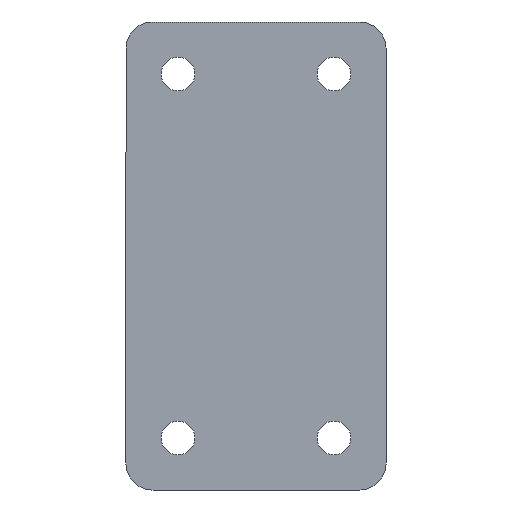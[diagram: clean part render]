
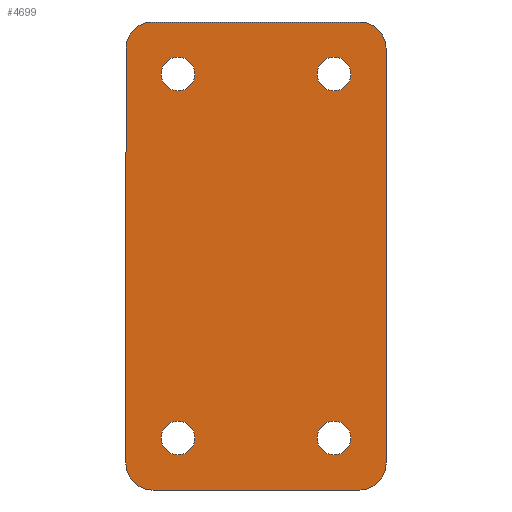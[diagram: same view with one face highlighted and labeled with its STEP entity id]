
A CAD part, front view. The second image highlights one B-rep face of the part: STEP entity #4699.
In plain terms, the highlighted planar face has unit normal (0, -1, 0).
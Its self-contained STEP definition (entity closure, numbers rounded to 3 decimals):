
#95 = EDGE_LOOP ( 'NONE', ( #6137, #782, #2592, #3258, #4084, #3847, #2027, #2039 ) ) ;
#100 = ORIENTED_EDGE ( 'NONE', *, *, #2501, .T. ) ;
#244 = VECTOR ( 'NONE', #1064, 1000. ) ;
#310 = DIRECTION ( 'NONE',  ( 0., 0., 1. ) ) ;
#340 = DIRECTION ( 'NONE',  ( 0., 0., -1. ) ) ;
#348 = PLANE ( 'NONE',  #1452 ) ;
#361 = CARTESIAN_POINT ( 'NONE',  ( 30., -5., 63.5 ) ) ;
#424 = CARTESIAN_POINT ( 'NONE',  ( 40., -5., -80. ) ) ;
#703 = CARTESIAN_POINT ( 'NONE',  ( 40., -5., 80. ) ) ;
#765 = DIRECTION ( 'NONE',  ( 0., -1., 0. ) ) ;
#782 = ORIENTED_EDGE ( 'NONE', *, *, #4715, .T. ) ;
#803 = EDGE_CURVE ( 'NONE', #1171, #3962, #4389, .T. ) ;
#825 = DIRECTION ( 'NONE',  ( 0., 0., 1. ) ) ;
#889 = CARTESIAN_POINT ( 'NONE',  ( 40., -5., -90. ) ) ;
#929 = DIRECTION ( 'NONE',  ( 0., -1., 0. ) ) ;
#1064 = DIRECTION ( 'NONE',  ( 1., 0., 0. ) ) ;
#1066 = AXIS2_PLACEMENT_3D ( 'NONE', #703, #5604, #5530 ) ;
#1123 = CARTESIAN_POINT ( 'NONE',  ( 30., -5., 70. ) ) ;
#1165 = EDGE_CURVE ( 'NONE', #4618, #3319, #3106, .T. ) ;
#1171 = VERTEX_POINT ( 'NONE', #889 ) ;
#1276 = DIRECTION ( 'NONE',  ( 0., 1., 0. ) ) ;
#1281 = AXIS2_PLACEMENT_3D ( 'NONE', #4767, #4275, #825 ) ;
#1300 = ORIENTED_EDGE ( 'NONE', *, *, #1557, .T. ) ;
#1345 = DIRECTION ( 'NONE',  ( 0., 0., 1. ) ) ;
#1406 = CARTESIAN_POINT ( 'NONE',  ( -50., -5., 80. ) ) ;
#1452 = AXIS2_PLACEMENT_3D ( 'NONE', #2300, #1937, #1772 ) ;
#1557 = EDGE_CURVE ( 'NONE', #2632, #4958, #1710, .T. ) ;
#1566 = FACE_BOUND ( 'NONE', #4624, .T. ) ;
#1573 = LINE ( 'NONE', #4586, #244 ) ;
#1620 = AXIS2_PLACEMENT_3D ( 'NONE', #1681, #5580, #4669 ) ;
#1627 = DIRECTION ( 'NONE',  ( 0., 1., 0. ) ) ;
#1629 = VECTOR ( 'NONE', #5295, 1000. ) ;
#1681 = CARTESIAN_POINT ( 'NONE',  ( 30., -5., 70. ) ) ;
#1710 = CIRCLE ( 'NONE', #1620, 6.5 ) ;
#1772 = DIRECTION ( 'NONE',  ( 0., 0., 1. ) ) ;
#1776 = DIRECTION ( 'NONE',  ( 0., 0., 1. ) ) ;
#1778 = CARTESIAN_POINT ( 'NONE',  ( -30., -5., 70. ) ) ;
#1783 = EDGE_CURVE ( 'NONE', #4341, #3319, #4934, .T. ) ;
#1824 = ORIENTED_EDGE ( 'NONE', *, *, #4863, .T. ) ;
#1849 = VERTEX_POINT ( 'NONE', #3752 ) ;
#1914 = VERTEX_POINT ( 'NONE', #5206 ) ;
#1937 = DIRECTION ( 'NONE',  ( 0., 1., 0. ) ) ;
#1940 = AXIS2_PLACEMENT_3D ( 'NONE', #6200, #4233, #5726 ) ;
#1986 = DIRECTION ( 'NONE',  ( 0., 1., 0. ) ) ;
#1988 = VERTEX_POINT ( 'NONE', #6182 ) ;
#2027 = ORIENTED_EDGE ( 'NONE', *, *, #5828, .F. ) ;
#2032 = FACE_BOUND ( 'NONE', #4249, .T. ) ;
#2039 = ORIENTED_EDGE ( 'NONE', *, *, #1783, .T. ) ;
#2127 = DIRECTION ( 'NONE',  ( 0., 0., 1. ) ) ;
#2164 = CARTESIAN_POINT ( 'NONE',  ( 30., -5., -63.5 ) ) ;
#2234 = VERTEX_POINT ( 'NONE', #5693 ) ;
#2287 = CARTESIAN_POINT ( 'NONE',  ( -50., -5., -90. ) ) ;
#2295 = EDGE_CURVE ( 'NONE', #3397, #2234, #3028, .T. ) ;
#2300 = CARTESIAN_POINT ( 'NONE',  ( 0., -5., 0. ) ) ;
#2318 = CARTESIAN_POINT ( 'NONE',  ( 30., -5., -70. ) ) ;
#2370 = AXIS2_PLACEMENT_3D ( 'NONE', #2318, #2788, #3776 ) ;
#2383 = CARTESIAN_POINT ( 'NONE',  ( -30., -5., -76.5 ) ) ;
#2452 = AXIS2_PLACEMENT_3D ( 'NONE', #1123, #1627, #2127 ) ;
#2464 = VERTEX_POINT ( 'NONE', #3699 ) ;
#2490 = AXIS2_PLACEMENT_3D ( 'NONE', #1778, #1276, #6168 ) ;
#2500 = CIRCLE ( 'NONE', #3281, 6.5 ) ;
#2501 = EDGE_CURVE ( 'NONE', #6097, #5011, #6227, .T. ) ;
#2555 = DIRECTION ( 'NONE',  ( 0., 1., 0. ) ) ;
#2592 = ORIENTED_EDGE ( 'NONE', *, *, #3114, .F. ) ;
#2632 = VERTEX_POINT ( 'NONE', #361 ) ;
#2695 = CARTESIAN_POINT ( 'NONE',  ( 50., -5., -80. ) ) ;
#2721 = CIRCLE ( 'NONE', #1066, 10. ) ;
#2788 = DIRECTION ( 'NONE',  ( 0., 1., 0. ) ) ;
#2792 = DIRECTION ( 'NONE',  ( 0., 1., 0. ) ) ;
#2877 = EDGE_CURVE ( 'NONE', #2464, #3962, #5158, .T. ) ;
#2884 = FACE_OUTER_BOUND ( 'NONE', #95, .T. ) ;
#2940 = LINE ( 'NONE', #2287, #1629 ) ;
#2941 = CARTESIAN_POINT ( 'NONE',  ( -50., -5., -80. ) ) ;
#3008 = DIRECTION ( 'NONE',  ( 0., 0., 1. ) ) ;
#3026 = ORIENTED_EDGE ( 'NONE', *, *, #4852, .T. ) ;
#3028 = CIRCLE ( 'NONE', #2490, 6.5 ) ;
#3106 = LINE ( 'NONE', #4316, #5388 ) ;
#3114 = EDGE_CURVE ( 'NONE', #1171, #1914, #2940, .T. ) ;
#3198 = CIRCLE ( 'NONE', #4450, 6.5 ) ;
#3258 = ORIENTED_EDGE ( 'NONE', *, *, #803, .T. ) ;
#3281 = AXIS2_PLACEMENT_3D ( 'NONE', #4248, #2792, #1776 ) ;
#3319 = VERTEX_POINT ( 'NONE', #1406 ) ;
#3347 = CIRCLE ( 'NONE', #2370, 6.5 ) ;
#3387 = ORIENTED_EDGE ( 'NONE', *, *, #2295, .T. ) ;
#3397 = VERTEX_POINT ( 'NONE', #4436 ) ;
#3434 = EDGE_CURVE ( 'NONE', #2464, #1849, #2721, .T. ) ;
#3571 = AXIS2_PLACEMENT_3D ( 'NONE', #5212, #765, #310 ) ;
#3579 = EDGE_LOOP ( 'NONE', ( #4622, #1300 ) ) ;
#3681 = EDGE_CURVE ( 'NONE', #5011, #6097, #2500, .T. ) ;
#3699 = CARTESIAN_POINT ( 'NONE',  ( 50., -5., 80. ) ) ;
#3752 = CARTESIAN_POINT ( 'NONE',  ( 40., -5., 90. ) ) ;
#3776 = DIRECTION ( 'NONE',  ( 0., 0., 1. ) ) ;
#3784 = VECTOR ( 'NONE', #340, 1000. ) ;
#3847 = ORIENTED_EDGE ( 'NONE', *, *, #3434, .T. ) ;
#3944 = CARTESIAN_POINT ( 'NONE',  ( 30., -5., -70. ) ) ;
#3962 = VERTEX_POINT ( 'NONE', #2695 ) ;
#4084 = ORIENTED_EDGE ( 'NONE', *, *, #2877, .F. ) ;
#4198 = CARTESIAN_POINT ( 'NONE',  ( -40., -5., 90. ) ) ;
#4224 = EDGE_CURVE ( 'NONE', #4958, #2632, #4864, .T. ) ;
#4232 = ORIENTED_EDGE ( 'NONE', *, *, #3681, .T. ) ;
#4233 = DIRECTION ( 'NONE',  ( 0., -1., 0. ) ) ;
#4248 = CARTESIAN_POINT ( 'NONE',  ( -30., -5., -70. ) ) ;
#4249 = EDGE_LOOP ( 'NONE', ( #3026, #5361 ) ) ;
#4275 = DIRECTION ( 'NONE',  ( 0., 1., 0. ) ) ;
#4276 = CARTESIAN_POINT ( 'NONE',  ( -30., -5., -63.5 ) ) ;
#4312 = CARTESIAN_POINT ( 'NONE',  ( 50., -5., -90. ) ) ;
#4316 = CARTESIAN_POINT ( 'NONE',  ( -50., -5., -90. ) ) ;
#4341 = VERTEX_POINT ( 'NONE', #4198 ) ;
#4376 = DIRECTION ( 'NONE',  ( 0., 0., 1. ) ) ;
#4389 = CIRCLE ( 'NONE', #6101, 10. ) ;
#4436 = CARTESIAN_POINT ( 'NONE',  ( -30., -5., 76.5 ) ) ;
#4450 = AXIS2_PLACEMENT_3D ( 'NONE', #3944, #1986, #3008 ) ;
#4491 = FACE_BOUND ( 'NONE', #3579, .T. ) ;
#4532 = VERTEX_POINT ( 'NONE', #2164 ) ;
#4562 = CIRCLE ( 'NONE', #3571, 10. ) ;
#4586 = CARTESIAN_POINT ( 'NONE',  ( -50., -5., 90. ) ) ;
#4618 = VERTEX_POINT ( 'NONE', #2941 ) ;
#4622 = ORIENTED_EDGE ( 'NONE', *, *, #4224, .T. ) ;
#4624 = EDGE_LOOP ( 'NONE', ( #3387, #1824 ) ) ;
#4669 = DIRECTION ( 'NONE',  ( 0., 0., 1. ) ) ;
#4699 = ADVANCED_FACE ( 'NONE', ( #1566, #4491, #2032, #5489, #2884 ), #348, .F. ) ;
#4715 = EDGE_CURVE ( 'NONE', #4618, #1914, #4562, .T. ) ;
#4765 = EDGE_CURVE ( 'NONE', #1988, #4532, #3347, .T. ) ;
#4767 = CARTESIAN_POINT ( 'NONE',  ( -30., -5., -70. ) ) ;
#4852 = EDGE_CURVE ( 'NONE', #4532, #1988, #3198, .T. ) ;
#4863 = EDGE_CURVE ( 'NONE', #2234, #3397, #5632, .T. ) ;
#4864 = CIRCLE ( 'NONE', #2452, 6.5 ) ;
#4927 = DIRECTION ( 'NONE',  ( 0., 0., 1. ) ) ;
#4934 = CIRCLE ( 'NONE', #1940, 10. ) ;
#4958 = VERTEX_POINT ( 'NONE', #5757 ) ;
#5011 = VERTEX_POINT ( 'NONE', #2383 ) ;
#5158 = LINE ( 'NONE', #4312, #3784 ) ;
#5206 = CARTESIAN_POINT ( 'NONE',  ( -40., -5., -90. ) ) ;
#5212 = CARTESIAN_POINT ( 'NONE',  ( -40., -5., -80. ) ) ;
#5295 = DIRECTION ( 'NONE',  ( -1., 0., 0. ) ) ;
#5361 = ORIENTED_EDGE ( 'NONE', *, *, #4765, .T. ) ;
#5388 = VECTOR ( 'NONE', #1345, 1000. ) ;
#5457 = CARTESIAN_POINT ( 'NONE',  ( -30., -5., 70. ) ) ;
#5489 = FACE_BOUND ( 'NONE', #6169, .T. ) ;
#5530 = DIRECTION ( 'NONE',  ( 0., 0., 1. ) ) ;
#5580 = DIRECTION ( 'NONE',  ( 0., 1., 0. ) ) ;
#5604 = DIRECTION ( 'NONE',  ( 0., -1., 0. ) ) ;
#5632 = CIRCLE ( 'NONE', #5761, 6.5 ) ;
#5693 = CARTESIAN_POINT ( 'NONE',  ( -30., -5., 63.5 ) ) ;
#5726 = DIRECTION ( 'NONE',  ( 0., 0., 1. ) ) ;
#5757 = CARTESIAN_POINT ( 'NONE',  ( 30., -5., 76.5 ) ) ;
#5761 = AXIS2_PLACEMENT_3D ( 'NONE', #5457, #2555, #4927 ) ;
#5828 = EDGE_CURVE ( 'NONE', #4341, #1849, #1573, .T. ) ;
#6097 = VERTEX_POINT ( 'NONE', #4276 ) ;
#6101 = AXIS2_PLACEMENT_3D ( 'NONE', #424, #929, #4376 ) ;
#6137 = ORIENTED_EDGE ( 'NONE', *, *, #1165, .F. ) ;
#6168 = DIRECTION ( 'NONE',  ( 0., 0., 1. ) ) ;
#6169 = EDGE_LOOP ( 'NONE', ( #100, #4232 ) ) ;
#6182 = CARTESIAN_POINT ( 'NONE',  ( 30., -5., -76.5 ) ) ;
#6200 = CARTESIAN_POINT ( 'NONE',  ( -40., -5., 80. ) ) ;
#6227 = CIRCLE ( 'NONE', #1281, 6.5 ) ;
